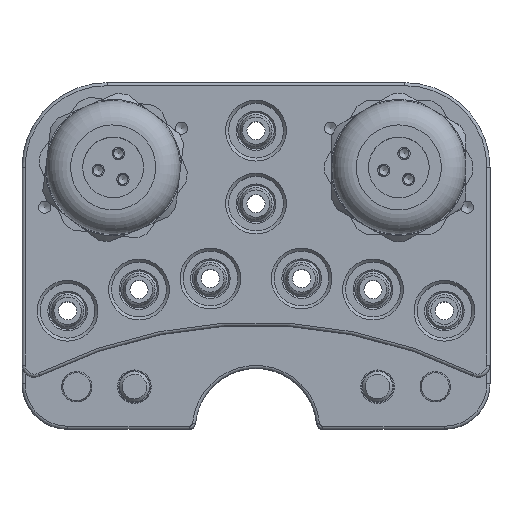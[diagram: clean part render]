
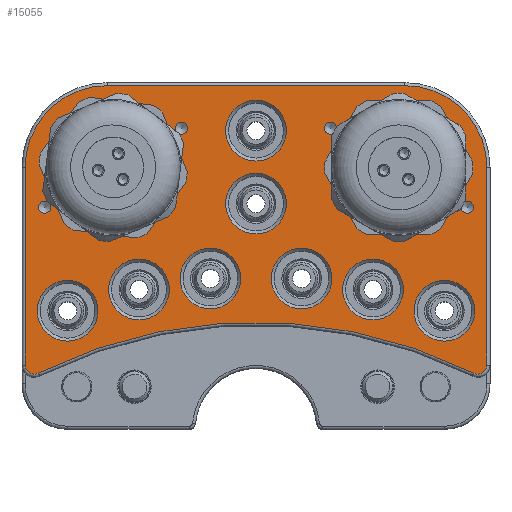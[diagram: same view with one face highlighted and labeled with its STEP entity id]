
A CAD part, top view. The second image highlights one B-rep face of the part: STEP entity #15055.
In plain terms, the highlighted planar face has unit normal (0, 0, 1).
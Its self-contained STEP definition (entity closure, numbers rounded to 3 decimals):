
#219=FACE_BOUND('',#1988,.T.);
#220=FACE_BOUND('',#1989,.T.);
#221=FACE_BOUND('',#1990,.T.);
#222=FACE_BOUND('',#1991,.T.);
#223=FACE_BOUND('',#1992,.T.);
#224=FACE_BOUND('',#1993,.T.);
#225=FACE_BOUND('',#1994,.T.);
#226=FACE_BOUND('',#1995,.T.);
#227=FACE_BOUND('',#1996,.T.);
#228=FACE_BOUND('',#1997,.T.);
#229=FACE_BOUND('',#1998,.T.);
#230=FACE_BOUND('',#1999,.T.);
#231=FACE_BOUND('',#2000,.T.);
#232=FACE_BOUND('',#2001,.T.);
#455=PLANE('',#16009);
#1138=FACE_OUTER_BOUND('',#1987,.T.);
#1987=EDGE_LOOP('',(#9765,#9766,#9767,#9768,#9769,#9770,#9771,#9772));
#1988=EDGE_LOOP('',(#9773));
#1989=EDGE_LOOP('',(#9774));
#1990=EDGE_LOOP('',(#9775));
#1991=EDGE_LOOP('',(#9776));
#1992=EDGE_LOOP('',(#9777));
#1993=EDGE_LOOP('',(#9778,#9779));
#1994=EDGE_LOOP('',(#9780,#9781));
#1995=EDGE_LOOP('',(#9782,#9783));
#1996=EDGE_LOOP('',(#9784,#9785));
#1997=EDGE_LOOP('',(#9786));
#1998=EDGE_LOOP('',(#9787));
#1999=EDGE_LOOP('',(#9788));
#2000=EDGE_LOOP('',(#9789));
#2001=EDGE_LOOP('',(#9790));
#3048=LINE('',#23176,#3880);
#3049=LINE('',#23180,#3881);
#3050=LINE('',#23184,#3882);
#3880=VECTOR('',#18189,10.);
#3881=VECTOR('',#18192,10.);
#3882=VECTOR('',#18195,10.);
#4735=CIRCLE('',#16006,5.);
#4738=CIRCLE('',#16010,1.5);
#4739=CIRCLE('',#16011,13.5);
#4740=CIRCLE('',#16012,13.5);
#4741=CIRCLE('',#16013,1.5);
#4742=CIRCLE('',#16014,80.6);
#4743=CIRCLE('',#16015,5.);
#4744=CIRCLE('',#16016,5.);
#4745=CIRCLE('',#16017,5.);
#4746=CIRCLE('',#16018,5.);
#4747=CIRCLE('',#16019,9.55);
#4748=CIRCLE('',#16020,1.007);
#4749=CIRCLE('',#16021,1.007);
#4750=CIRCLE('',#16022,1.007);
#4751=CIRCLE('',#16023,1.007);
#4752=CIRCLE('',#16024,1.007);
#4753=CIRCLE('',#16025,1.007);
#4754=CIRCLE('',#16026,1.007);
#4755=CIRCLE('',#16027,1.007);
#4756=CIRCLE('',#16028,9.55);
#4757=CIRCLE('',#16029,5.);
#4758=CIRCLE('',#16030,5.);
#4759=CIRCLE('',#16031,5.);
#5987=VERTEX_POINT('',#23164);
#5990=VERTEX_POINT('',#23172);
#5991=VERTEX_POINT('',#23173);
#5992=VERTEX_POINT('',#23175);
#5993=VERTEX_POINT('',#23177);
#5994=VERTEX_POINT('',#23179);
#5995=VERTEX_POINT('',#23181);
#5996=VERTEX_POINT('',#23183);
#5997=VERTEX_POINT('',#23185);
#5998=VERTEX_POINT('',#23188);
#5999=VERTEX_POINT('',#23190);
#6000=VERTEX_POINT('',#23192);
#6001=VERTEX_POINT('',#23194);
#6002=VERTEX_POINT('',#23196);
#6003=VERTEX_POINT('',#23198);
#6004=VERTEX_POINT('',#23199);
#6005=VERTEX_POINT('',#23202);
#6006=VERTEX_POINT('',#23203);
#6007=VERTEX_POINT('',#23206);
#6008=VERTEX_POINT('',#23207);
#6009=VERTEX_POINT('',#23210);
#6010=VERTEX_POINT('',#23211);
#6011=VERTEX_POINT('',#23214);
#6012=VERTEX_POINT('',#23216);
#6013=VERTEX_POINT('',#23218);
#6014=VERTEX_POINT('',#23220);
#7554=EDGE_CURVE('',#5987,#5987,#4735,.T.);
#7558=EDGE_CURVE('',#5990,#5991,#4738,.T.);
#7559=EDGE_CURVE('',#5992,#5990,#3048,.T.);
#7560=EDGE_CURVE('',#5993,#5992,#4739,.T.);
#7561=EDGE_CURVE('',#5994,#5993,#3049,.T.);
#7562=EDGE_CURVE('',#5995,#5994,#4740,.T.);
#7563=EDGE_CURVE('',#5996,#5995,#3050,.T.);
#7564=EDGE_CURVE('',#5997,#5996,#4741,.T.);
#7565=EDGE_CURVE('',#5991,#5997,#4742,.T.);
#7566=EDGE_CURVE('',#5998,#5998,#4743,.T.);
#7567=EDGE_CURVE('',#5999,#5999,#4744,.T.);
#7568=EDGE_CURVE('',#6000,#6000,#4745,.T.);
#7569=EDGE_CURVE('',#6001,#6001,#4746,.T.);
#7570=EDGE_CURVE('',#6002,#6002,#4747,.T.);
#7571=EDGE_CURVE('',#6003,#6004,#4748,.T.);
#7572=EDGE_CURVE('',#6004,#6003,#4749,.T.);
#7573=EDGE_CURVE('',#6005,#6006,#4750,.T.);
#7574=EDGE_CURVE('',#6006,#6005,#4751,.T.);
#7575=EDGE_CURVE('',#6007,#6008,#4752,.T.);
#7576=EDGE_CURVE('',#6008,#6007,#4753,.T.);
#7577=EDGE_CURVE('',#6009,#6010,#4754,.T.);
#7578=EDGE_CURVE('',#6010,#6009,#4755,.T.);
#7579=EDGE_CURVE('',#6011,#6011,#4756,.T.);
#7580=EDGE_CURVE('',#6012,#6012,#4757,.T.);
#7581=EDGE_CURVE('',#6013,#6013,#4758,.T.);
#7582=EDGE_CURVE('',#6014,#6014,#4759,.T.);
#9765=ORIENTED_EDGE('',*,*,#7558,.F.);
#9766=ORIENTED_EDGE('',*,*,#7559,.F.);
#9767=ORIENTED_EDGE('',*,*,#7560,.F.);
#9768=ORIENTED_EDGE('',*,*,#7561,.F.);
#9769=ORIENTED_EDGE('',*,*,#7562,.F.);
#9770=ORIENTED_EDGE('',*,*,#7563,.F.);
#9771=ORIENTED_EDGE('',*,*,#7564,.F.);
#9772=ORIENTED_EDGE('',*,*,#7565,.F.);
#9773=ORIENTED_EDGE('',*,*,#7566,.F.);
#9774=ORIENTED_EDGE('',*,*,#7567,.F.);
#9775=ORIENTED_EDGE('',*,*,#7568,.F.);
#9776=ORIENTED_EDGE('',*,*,#7569,.F.);
#9777=ORIENTED_EDGE('',*,*,#7570,.F.);
#9778=ORIENTED_EDGE('',*,*,#7571,.T.);
#9779=ORIENTED_EDGE('',*,*,#7572,.T.);
#9780=ORIENTED_EDGE('',*,*,#7573,.T.);
#9781=ORIENTED_EDGE('',*,*,#7574,.T.);
#9782=ORIENTED_EDGE('',*,*,#7575,.T.);
#9783=ORIENTED_EDGE('',*,*,#7576,.T.);
#9784=ORIENTED_EDGE('',*,*,#7577,.T.);
#9785=ORIENTED_EDGE('',*,*,#7578,.T.);
#9786=ORIENTED_EDGE('',*,*,#7579,.F.);
#9787=ORIENTED_EDGE('',*,*,#7580,.F.);
#9788=ORIENTED_EDGE('',*,*,#7581,.F.);
#9789=ORIENTED_EDGE('',*,*,#7582,.F.);
#9790=ORIENTED_EDGE('',*,*,#7554,.F.);
#15055=ADVANCED_FACE('',(#1138,#219,#220,#221,#222,#223,#224,#225,#226,
#227,#228,#229,#230,#231,#232),#455,.T.);
#16006=AXIS2_PLACEMENT_3D('',#23165,#18178,#18179);
#16009=AXIS2_PLACEMENT_3D('',#23171,#18185,#18186);
#16010=AXIS2_PLACEMENT_3D('',#23174,#18187,#18188);
#16011=AXIS2_PLACEMENT_3D('',#23178,#18190,#18191);
#16012=AXIS2_PLACEMENT_3D('',#23182,#18193,#18194);
#16013=AXIS2_PLACEMENT_3D('',#23186,#18196,#18197);
#16014=AXIS2_PLACEMENT_3D('',#23187,#18198,#18199);
#16015=AXIS2_PLACEMENT_3D('',#23189,#18200,#18201);
#16016=AXIS2_PLACEMENT_3D('',#23191,#18202,#18203);
#16017=AXIS2_PLACEMENT_3D('',#23193,#18204,#18205);
#16018=AXIS2_PLACEMENT_3D('',#23195,#18206,#18207);
#16019=AXIS2_PLACEMENT_3D('',#23197,#18208,#18209);
#16020=AXIS2_PLACEMENT_3D('',#23200,#18210,#18211);
#16021=AXIS2_PLACEMENT_3D('',#23201,#18212,#18213);
#16022=AXIS2_PLACEMENT_3D('',#23204,#18214,#18215);
#16023=AXIS2_PLACEMENT_3D('',#23205,#18216,#18217);
#16024=AXIS2_PLACEMENT_3D('',#23208,#18218,#18219);
#16025=AXIS2_PLACEMENT_3D('',#23209,#18220,#18221);
#16026=AXIS2_PLACEMENT_3D('',#23212,#18222,#18223);
#16027=AXIS2_PLACEMENT_3D('',#23213,#18224,#18225);
#16028=AXIS2_PLACEMENT_3D('',#23215,#18226,#18227);
#16029=AXIS2_PLACEMENT_3D('',#23217,#18228,#18229);
#16030=AXIS2_PLACEMENT_3D('',#23219,#18230,#18231);
#16031=AXIS2_PLACEMENT_3D('',#23221,#18232,#18233);
#18178=DIRECTION('center_axis',(0.,0.,1.));
#18179=DIRECTION('ref_axis',(-1.,0.,0.));
#18185=DIRECTION('center_axis',(0.,0.,1.));
#18186=DIRECTION('ref_axis',(1.,0.,0.));
#18187=DIRECTION('center_axis',(0.,0.,-1.));
#18188=DIRECTION('ref_axis',(0.527,-0.85,0.));
#18189=DIRECTION('',(0.,-1.,0.));
#18190=DIRECTION('center_axis',(0.,0.,-1.));
#18191=DIRECTION('ref_axis',(0.707,0.707,0.));
#18192=DIRECTION('',(1.,0.,0.));
#18193=DIRECTION('center_axis',(0.,0.,-1.));
#18194=DIRECTION('ref_axis',(-0.707,0.707,0.));
#18195=DIRECTION('',(0.,1.,0.));
#18196=DIRECTION('center_axis',(0.,0.,-1.));
#18197=DIRECTION('ref_axis',(-0.527,-0.85,0.));
#18198=DIRECTION('center_axis',(0.,0.,1.));
#18199=DIRECTION('ref_axis',(0.,1.,0.));
#18200=DIRECTION('center_axis',(0.,0.,1.));
#18201=DIRECTION('ref_axis',(-1.,0.,0.));
#18202=DIRECTION('center_axis',(0.,0.,1.));
#18203=DIRECTION('ref_axis',(-1.,0.,0.));
#18204=DIRECTION('center_axis',(0.,0.,1.));
#18205=DIRECTION('ref_axis',(-1.,0.,0.));
#18206=DIRECTION('center_axis',(0.,0.,1.));
#18207=DIRECTION('ref_axis',(-1.,0.,0.));
#18208=DIRECTION('center_axis',(0.,0.,1.));
#18209=DIRECTION('ref_axis',(-1.,0.,0.));
#18210=DIRECTION('center_axis',(0.,0.,-1.));
#18211=DIRECTION('ref_axis',(1.,0.,0.));
#18212=DIRECTION('center_axis',(0.,0.,-1.));
#18213=DIRECTION('ref_axis',(1.,0.,0.));
#18214=DIRECTION('center_axis',(0.,0.,-1.));
#18215=DIRECTION('ref_axis',(1.,0.,0.));
#18216=DIRECTION('center_axis',(0.,0.,-1.));
#18217=DIRECTION('ref_axis',(1.,0.,0.));
#18218=DIRECTION('center_axis',(0.,0.,-1.));
#18219=DIRECTION('ref_axis',(1.,0.,0.));
#18220=DIRECTION('center_axis',(0.,0.,-1.));
#18221=DIRECTION('ref_axis',(1.,0.,0.));
#18222=DIRECTION('center_axis',(0.,0.,-1.));
#18223=DIRECTION('ref_axis',(1.,0.,0.));
#18224=DIRECTION('center_axis',(0.,0.,-1.));
#18225=DIRECTION('ref_axis',(1.,0.,0.));
#18226=DIRECTION('center_axis',(0.,0.,1.));
#18227=DIRECTION('ref_axis',(-1.,0.,0.));
#18228=DIRECTION('center_axis',(0.,0.,1.));
#18229=DIRECTION('ref_axis',(-1.,0.,0.));
#18230=DIRECTION('center_axis',(0.,0.,1.));
#18231=DIRECTION('ref_axis',(-1.,0.,0.));
#18232=DIRECTION('center_axis',(0.,0.,1.));
#18233=DIRECTION('ref_axis',(-1.,0.,0.));
#23164=CARTESIAN_POINT('',(5.,49.1,0.));
#23165=CARTESIAN_POINT('Origin',(0.,49.1,0.));
#23171=CARTESIAN_POINT('Origin',(0.,27.981,
0.));
#23172=CARTESIAN_POINT('',(38.,10.54,0.));
#23173=CARTESIAN_POINT('',(35.833,9.197,0.));
#23174=CARTESIAN_POINT('Origin',(36.5,10.54,0.));
#23175=CARTESIAN_POINT('',(38.,43.,0.));
#23176=CARTESIAN_POINT('',(38.,13.99,0.));
#23177=CARTESIAN_POINT('',(24.5,56.5,0.));
#23178=CARTESIAN_POINT('Origin',(24.5,43.,0.));
#23179=CARTESIAN_POINT('',(-24.5,56.5,0.));
#23180=CARTESIAN_POINT('',(19.25,56.5,0.));
#23181=CARTESIAN_POINT('',(-38.,43.,0.));
#23182=CARTESIAN_POINT('Origin',(-24.5,43.,0.));
#23183=CARTESIAN_POINT('',(-38.,10.54,0.));
#23184=CARTESIAN_POINT('',(-38.,42.49,0.));
#23185=CARTESIAN_POINT('',(-35.833,9.197,0.));
#23186=CARTESIAN_POINT('Origin',(-36.5,10.54,0.));
#23187=CARTESIAN_POINT('Origin',(0.,-63.,0.));
#23188=CARTESIAN_POINT('',(5.,37.1,0.));
#23189=CARTESIAN_POINT('Origin',(0.,37.1,0.));
#23190=CARTESIAN_POINT('',(12.5,24.78,0.));
#23191=CARTESIAN_POINT('Origin',(7.5,24.78,0.));
#23192=CARTESIAN_POINT('',(36.,19.466,0.));
#23193=CARTESIAN_POINT('Origin',(31.,19.466,0.));
#23194=CARTESIAN_POINT('',(-26.,19.466,0.));
#23195=CARTESIAN_POINT('Origin',(-31.,19.466,0.));
#23196=CARTESIAN_POINT('',(33.05,43.,0.));
#23197=CARTESIAN_POINT('Origin',(23.5,43.,0.));
#23198=CARTESIAN_POINT('',(35.765,36.5,0.));
#23199=CARTESIAN_POINT('',(33.752,36.5,0.));
#23200=CARTESIAN_POINT('Origin',(34.758,36.5,0.));
#23201=CARTESIAN_POINT('Origin',(34.758,36.5,0.));
#23202=CARTESIAN_POINT('',(-11.235,49.5,0.));
#23203=CARTESIAN_POINT('',(-13.248,49.5,0.));
#23204=CARTESIAN_POINT('Origin',(-12.242,49.5,0.));
#23205=CARTESIAN_POINT('Origin',(-12.242,49.5,0.));
#23206=CARTESIAN_POINT('',(-33.752,36.5,0.));
#23207=CARTESIAN_POINT('',(-35.765,36.5,0.));
#23208=CARTESIAN_POINT('Origin',(-34.758,36.5,0.));
#23209=CARTESIAN_POINT('Origin',(-34.758,36.5,0.));
#23210=CARTESIAN_POINT('',(13.248,49.5,0.));
#23211=CARTESIAN_POINT('',(11.235,49.5,0.));
#23212=CARTESIAN_POINT('Origin',(12.242,49.5,0.));
#23213=CARTESIAN_POINT('Origin',(12.242,49.5,0.));
#23214=CARTESIAN_POINT('',(-13.95,43.,0.));
#23215=CARTESIAN_POINT('Origin',(-23.5,43.,0.));
#23216=CARTESIAN_POINT('',(-14.25,22.971,0.));
#23217=CARTESIAN_POINT('Origin',(-19.25,22.971,0.));
#23218=CARTESIAN_POINT('',(24.25,22.971,0.));
#23219=CARTESIAN_POINT('Origin',(19.25,22.971,0.));
#23220=CARTESIAN_POINT('',(-2.5,24.78,0.));
#23221=CARTESIAN_POINT('Origin',(-7.5,24.78,0.));
